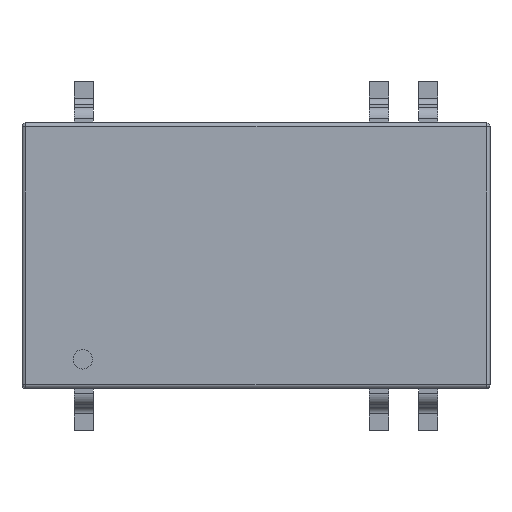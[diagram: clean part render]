
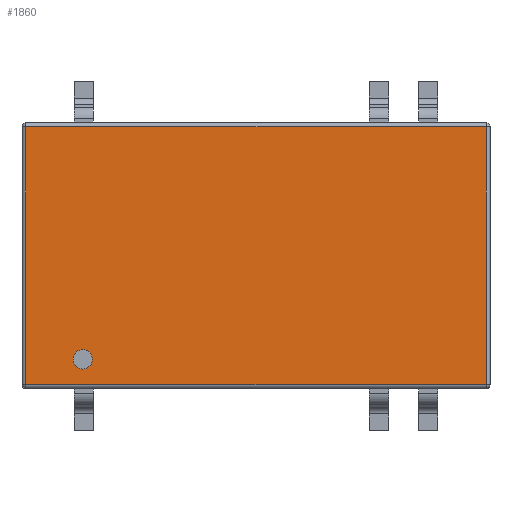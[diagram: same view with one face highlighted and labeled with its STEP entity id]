
A CAD part, top view. The second image highlights one B-rep face of the part: STEP entity #1860.
In plain terms, the highlighted planar face has unit normal (0, 0, 1).
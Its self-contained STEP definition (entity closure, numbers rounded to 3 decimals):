
#15=LINE('',#2748,#215);
#17=LINE('',#2751,#217);
#23=LINE('',#2766,#223);
#25=LINE('',#2769,#225);
#215=VECTOR('',#2187,23.75);
#217=VECTOR('',#2191,13.3);
#223=VECTOR('',#2207,13.3);
#225=VECTOR('',#2211,23.75);
#420=FACE_BOUND('',#599,.T.);
#487=FACE_OUTER_BOUND('',#598,.T.);
#598=EDGE_LOOP('',(#1284,#1285,#1286,#1287));
#599=EDGE_LOOP('',(#1288));
#704=CIRCLE('',#1959,0.5);
#778=VERTEX_POINT('',#2716);
#780=VERTEX_POINT('',#2721);
#784=VERTEX_POINT('',#2730);
#786=VERTEX_POINT('',#2735);
#790=VERTEX_POINT('',#2744);
#956=EDGE_CURVE('',#778,#778,#704,.T.);
#969=EDGE_CURVE('',#786,#790,#15,.T.);
#971=EDGE_CURVE('',#790,#784,#17,.T.);
#979=EDGE_CURVE('',#780,#786,#23,.T.);
#981=EDGE_CURVE('',#784,#780,#25,.T.);
#1284=ORIENTED_EDGE('',*,*,#969,.F.);
#1285=ORIENTED_EDGE('',*,*,#979,.F.);
#1286=ORIENTED_EDGE('',*,*,#981,.F.);
#1287=ORIENTED_EDGE('',*,*,#971,.F.);
#1288=ORIENTED_EDGE('',*,*,#956,.T.);
#1780=PLANE('',#1991);
#1860=ADVANCED_FACE('',(#487,#420),#1780,.F.);
#1959=AXIS2_PLACEMENT_3D('',#2717,#2149,#2150);
#1991=AXIS2_PLACEMENT_3D('',#2787,#2231,#2232);
#2149=DIRECTION('center_axis',(0.,0.,
-1.));
#2150=DIRECTION('ref_axis',(-1.,0.,0.));
#2187=DIRECTION('',(-1.,0.,0.));
#2191=DIRECTION('',(0.,1.,0.));
#2207=DIRECTION('',(0.,-1.,0.));
#2211=DIRECTION('',(1.,0.,0.));
#2231=DIRECTION('center_axis',(0.,0.,
-1.));
#2232=DIRECTION('ref_axis',(-1.,0.,0.));
#2716=CARTESIAN_POINT('',(-8.44,-5.35,9.2));
#2717=CARTESIAN_POINT('Origin',(-8.94,-5.35,9.2));
#2721=CARTESIAN_POINT('',(11.875,6.65,9.2));
#2730=CARTESIAN_POINT('',(-11.875,6.65,9.2));
#2735=CARTESIAN_POINT('',(11.875,-6.65,9.2));
#2744=CARTESIAN_POINT('',(-11.875,-6.65,9.2));
#2748=CARTESIAN_POINT('',(-6.038,-6.65,9.2));
#2751=CARTESIAN_POINT('',(-11.875,3.425,9.2));
#2766=CARTESIAN_POINT('',(11.875,-3.425,9.2));
#2769=CARTESIAN_POINT('',(6.038,6.65,9.2));
#2787=CARTESIAN_POINT('Origin',(0.,0.,9.2));
